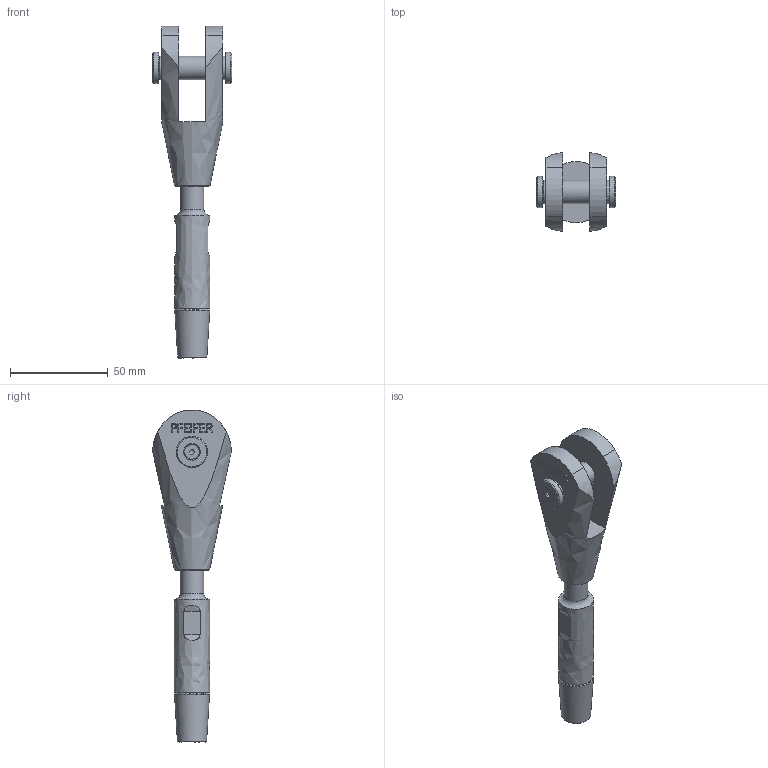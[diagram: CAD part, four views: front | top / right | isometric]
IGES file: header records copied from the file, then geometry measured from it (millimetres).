
Global section: file name: 520-012-GAK-ADA; native system: Autodesk Inventor 2016; preprocessor: unknown; author: Administrator; date: 20200703.130346; units: centimetre
Bounding box: 40.78 x 40.25 x 169.95 mm (x, y, z)
Volume: 60162 mm3; surface area: 19361.6 mm2
Topology: 2 solids, 3 shells, 197 faces, 521 edges, 350 vertices
Faces by surface type: bspline 197
